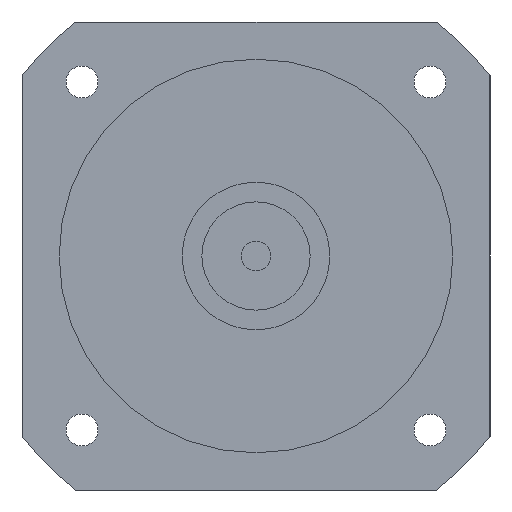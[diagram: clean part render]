
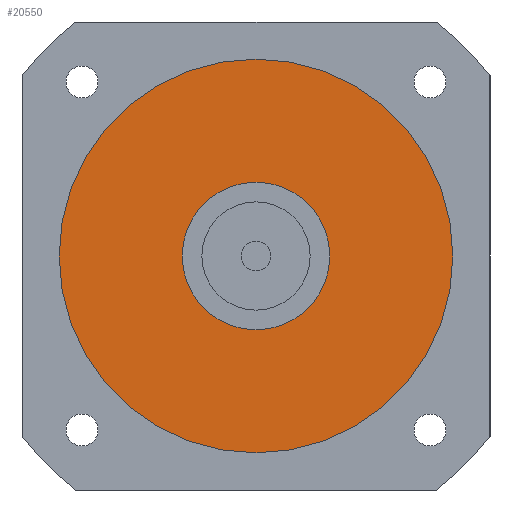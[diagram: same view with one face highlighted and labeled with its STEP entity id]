
A CAD part, left-side view. The second image highlights one B-rep face of the part: STEP entity #20550.
In plain terms, the highlighted planar face has unit normal (-1, 0, 0) as drawn and (0, 0, -1) by its records, which use the part's own axes.
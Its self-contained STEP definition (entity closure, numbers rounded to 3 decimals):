
#20070=CARTESIAN_POINT('',(0.,40.,-55.5));
#20080=VERTEX_POINT('',#20070);
#20110=CARTESIAN_POINT('',(0.,0.,
-55.5));
#20120=DIRECTION('',(0.,0.,-1.));
#20130=DIRECTION('',(0.,-1.,0.));
#20140=AXIS2_PLACEMENT_3D('',#20110,#20120,#20130);
#20150=CIRCLE('',#20140,40.);
#20160=CARTESIAN_POINT('',(0.,-40.,-55.5));
#20170=VERTEX_POINT('',#20160);
#20180=EDGE_CURVE('',#20080,#20170,#20150,.T.);
#20300=CARTESIAN_POINT('',(18.513,-16.263,-55.5));
#20310=DIRECTION('',(0.,0.,-1.));
#20320=DIRECTION('',(0.,-1.,0.));
#20330=AXIS2_PLACEMENT_3D('',#20300,#20310,#20320);
#20340=PLANE('',#20330);
#20350=CARTESIAN_POINT('',(0.,0.,
-55.5));
#20360=DIRECTION('',(0.,0.,1.));
#20370=DIRECTION('',(1.,0.,0.));
#20380=AXIS2_PLACEMENT_3D('',#20350,#20360,#20370);
#20390=CIRCLE('',#20380,15.);
#20400=CARTESIAN_POINT('',(15.,0.,-55.5));
#20410=VERTEX_POINT('',#20400);
#20420=CARTESIAN_POINT('',(-15.,0.,-55.5));
#20430=VERTEX_POINT('',#20420);
#20440=EDGE_CURVE('',#20410,#20430,#20390,.T.);
#20450=ORIENTED_EDGE('',*,*,#20440,.T.);
#20460=EDGE_CURVE('',#20430,#20410,#20390,.T.);
#20470=ORIENTED_EDGE('',*,*,#20460,.T.);
#20480=EDGE_LOOP('',(#20470,#20450));
#20490=FACE_BOUND('',#20480,.T.);
#20500=EDGE_CURVE('',#20170,#20080,#20150,.T.);
#20510=ORIENTED_EDGE('',*,*,#20500,.T.);
#20520=ORIENTED_EDGE('',*,*,#20180,.T.);
#20530=EDGE_LOOP('',(#20520,#20510));
#20540=FACE_OUTER_BOUND('',#20530,.T.);
#20550=ADVANCED_FACE('',(#20490,#20540),#20340,.T.);
